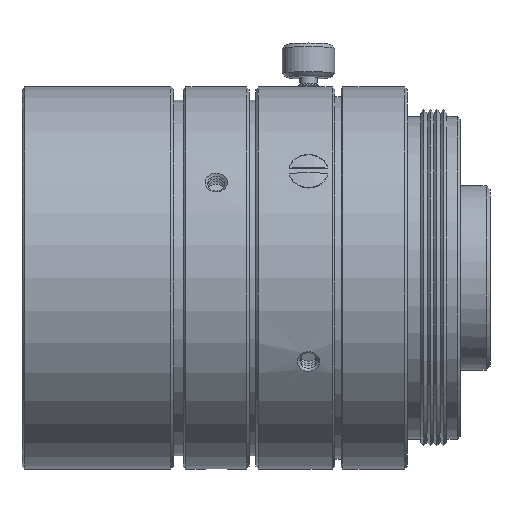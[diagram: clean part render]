
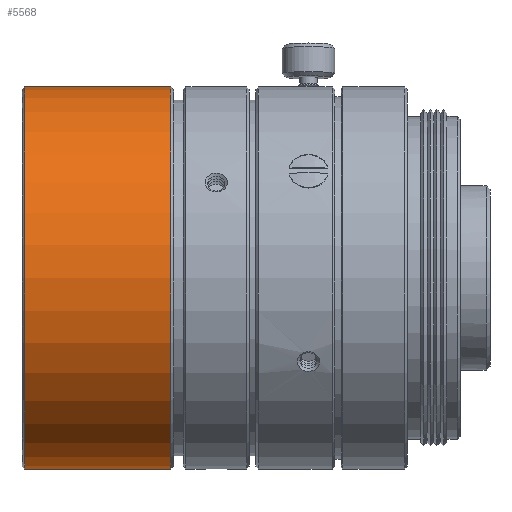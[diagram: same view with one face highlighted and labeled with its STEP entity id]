
A CAD part, front view. The second image highlights one B-rep face of the part: STEP entity #5568.
In plain terms, the highlighted cylindrical face has radius 14.5 mm (diameter 29 mm), a full revolution.
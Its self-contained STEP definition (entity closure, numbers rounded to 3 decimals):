
#282=CYLINDRICAL_SURFACE('',#6329,14.5);
#579=LINE('',#10221,#906);
#906=VECTOR('',#8106,14.5);
#1263=FACE_OUTER_BOUND('',#1620,.T.);
#1620=EDGE_LOOP('',(#5028,#5029,#5030,#5031,#5032,#5033));
#2087=CIRCLE('',#6327,14.5);
#2088=CIRCLE('',#6328,14.5);
#2089=CIRCLE('',#6330,14.5);
#2090=CIRCLE('',#6331,14.5);
#2655=VERTEX_POINT('',#10214);
#2656=VERTEX_POINT('',#10215);
#2657=VERTEX_POINT('',#10220);
#2658=VERTEX_POINT('',#10222);
#3454=EDGE_CURVE('',#2655,#2656,#2087,.T.);
#3455=EDGE_CURVE('',#2656,#2655,#2088,.T.);
#3457=EDGE_CURVE('',#2656,#2657,#579,.T.);
#3458=EDGE_CURVE('',#2658,#2657,#2089,.T.);
#3459=EDGE_CURVE('',#2657,#2658,#2090,.T.);
#5028=ORIENTED_EDGE('',*,*,#3454,.T.);
#5029=ORIENTED_EDGE('',*,*,#3457,.T.);
#5030=ORIENTED_EDGE('',*,*,#3458,.F.);
#5031=ORIENTED_EDGE('',*,*,#3459,.F.);
#5032=ORIENTED_EDGE('',*,*,#3457,.F.);
#5033=ORIENTED_EDGE('',*,*,#3455,.T.);
#5568=ADVANCED_FACE('',(#1263),#282,.T.);
#6327=AXIS2_PLACEMENT_3D('',#10216,#8099,#8100);
#6328=AXIS2_PLACEMENT_3D('',#10217,#8101,#8102);
#6329=AXIS2_PLACEMENT_3D('',#10219,#8104,#8105);
#6330=AXIS2_PLACEMENT_3D('',#10223,#8107,#8108);
#6331=AXIS2_PLACEMENT_3D('',#10224,#8109,#8110);
#8099=DIRECTION('center_axis',(1.,0.,0.));
#8100=DIRECTION('ref_axis',(0.,1.,0.));
#8101=DIRECTION('center_axis',(1.,0.,0.));
#8102=DIRECTION('ref_axis',(0.,1.,0.));
#8104=DIRECTION('center_axis',(-1.,0.,0.));
#8105=DIRECTION('ref_axis',(0.,1.,0.));
#8106=DIRECTION('',(1.,0.,0.));
#8107=DIRECTION('center_axis',(1.,0.,0.));
#8108=DIRECTION('ref_axis',(0.,1.,0.));
#8109=DIRECTION('center_axis',(1.,0.,0.));
#8110=DIRECTION('ref_axis',(0.,1.,0.));
#10214=CARTESIAN_POINT('',(0.2,14.5,0.));
#10215=CARTESIAN_POINT('',(0.2,-14.5,0.));
#10216=CARTESIAN_POINT('Origin',(0.2,0.,0.));
#10217=CARTESIAN_POINT('Origin',(0.2,0.,0.));
#10219=CARTESIAN_POINT('Origin',(5.75,0.,0.));
#10220=CARTESIAN_POINT('',(11.3,-14.5,0.));
#10221=CARTESIAN_POINT('',(5.75,-14.5,0.));
#10222=CARTESIAN_POINT('',(11.3,14.5,0.));
#10223=CARTESIAN_POINT('Origin',(11.3,0.,0.));
#10224=CARTESIAN_POINT('Origin',(11.3,0.,0.));
